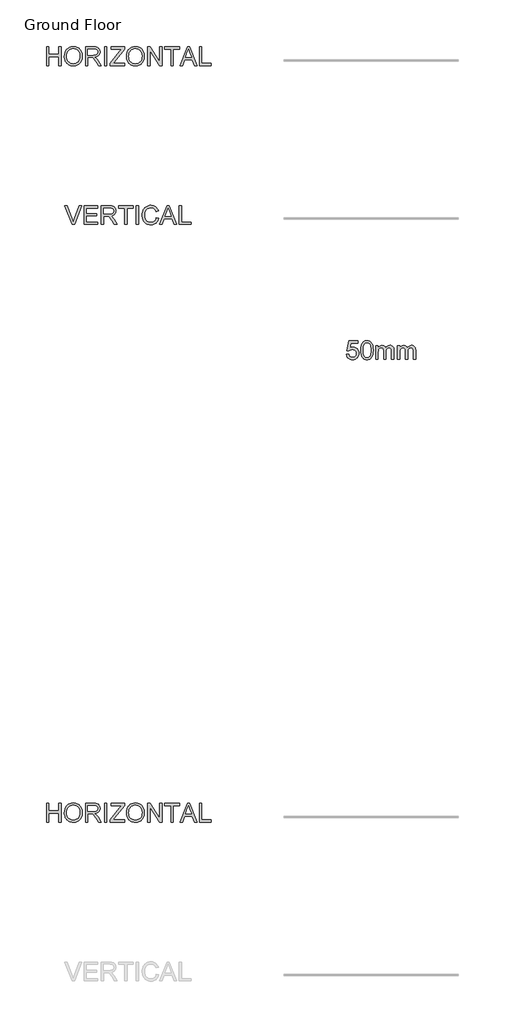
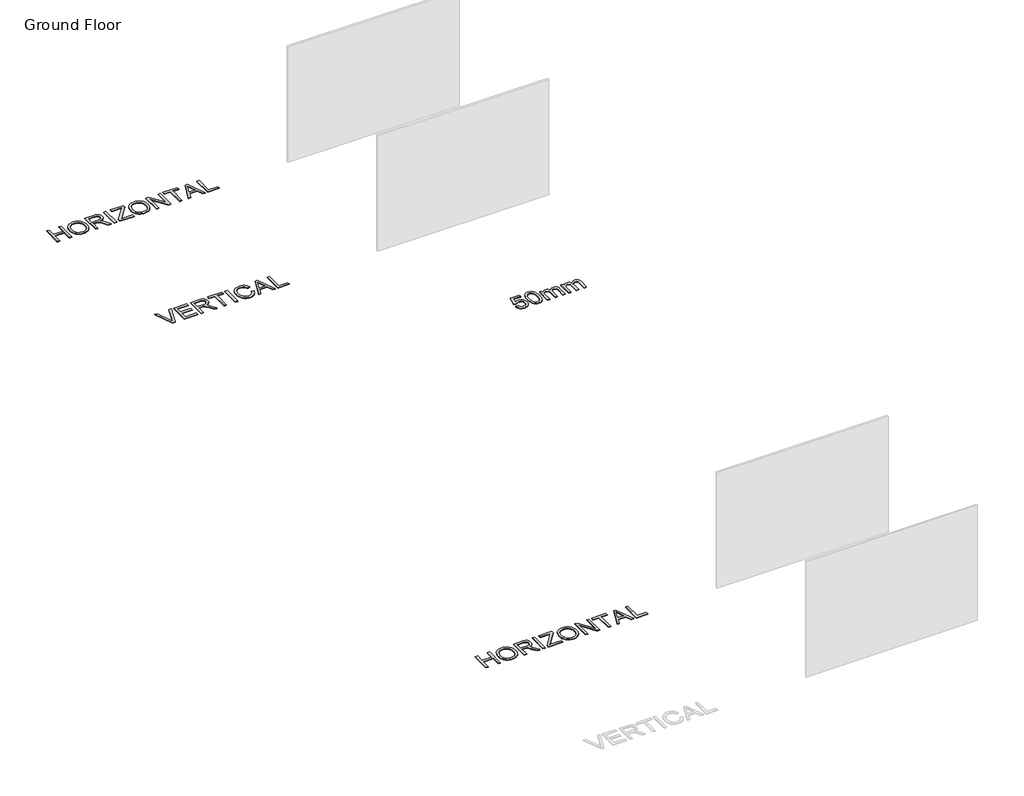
# One storey, part 2 of 14: 4 proxies.
"""IFC4 building model written with IfcOpenShell, lengths in millimetres."""

from ifc_helpers import new_model, si_unit, origin, origin_with_axes, place, context, project, spatial, polyline, outline, extrude, element, save

model = new_model("IFC4")

# Units and contexts
model_context = context("Model", 3, world=origin())
ifc_project = project(units=[si_unit("LENGTHUNIT", "METRE", prefix="MILLI")], contexts=[model_context])

# Site, building, storey
site = spatial("IfcSite", under=ifc_project)
building = spatial("IfcBuilding", under=site)
storey = spatial("IfcBuildingStorey", under=building, Name="Ground Floor", Elevation=0.0)

# Proxies
placement = place(None, origin())
element("IfcBuildingElementProxy", 1, Name="600mm Arial", ObjectType="600mm Arial", at=placement, inside=storey, context=model_context, shape_type="SweptSolid", body=[
    extrude(outline(polyline([(-7336.2514914, -74174.8316105), (-7260.9092588, -74165.4138315), (-7255.2806643, -74189.6342623), (-7247.0768958, -74210.6449228), (-7236.2979533, -74228.4458128), (-7222.9438369, -74243.0369324), (-7207.0421377, -74254.3998876), (-7188.6204467, -74262.5162841), (-7167.6787642, -74267.386122), (-7144.2170899, -74269.0094013), (-7115.5222943, -74266.7515255), (-7090.212013, -74259.9778983), (-7068.2862461, -74248.6885196), (-7049.7449936, -74232.8833894), (-7035.0021226, -74213.3442569), (-7024.4715005, -74190.8528714), (-7018.1531272, -74165.4092329), (-7016.0470028, -74137.0133414), (-7018.01977, -74110.1763499), (-7023.9380716, -74086.3192025), (-7033.8019076, -74065.4418993), (-7047.611278, -74047.5444402), (-7065.412168, -74033.1878453), (-7087.250563, -74022.9331347), (-7113.1264628, -74016.7803084), (-7143.0398675, -74014.7293662), (-7179.5889438, -74018.003516), (-7209.1850503, -74027.8259653), (-7232.8214685, -74042.8723389), (-7251.4914797, -74061.8182616), (-7326.8337123, -74052.4004825), (-7260.9092588, -73741.613773), (-6968.9581074, -73741.613773), (-6968.9581074, -73816.9560056), (-7199.9880004, -73816.9560056), (-7232.2144632, -73982.9443618), (-7205.625792, -73963.8880745), (-7178.3933273, -73950.2764407), (-7150.5170691, -73942.1094604), (-7121.9970174, -73939.3871336), (-7085.3053869, -73942.7624509), (-7051.6027976, -73952.8884028), (-7020.8892496, -73969.7649894), (-6993.1647427, -73993.3922105), (-6970.2135047, -74022.3261294), (-6953.8197633, -74055.1228093), (-6943.9835185, -74091.7822501), (-6940.7047702, -74132.3044519), (-6943.6570232, -74171.3367316), (-6952.5137822, -74207.6466845), (-6967.2750473, -74241.2343107), (-6987.9408184, -74272.0996101), (-7019.2475762, -74303.7098705), (-7055.7782583, -74326.2886279), (-7097.5328647, -74339.8358824), (-7144.5113955, -74344.3516339), (-7183.3919239, -74341.4499647), (-7218.5108589, -74332.744957), (-7249.8682004, -74318.2366108), (-7277.4639486, -74297.9249261), (-7300.4243836, -74272.8215785), (-7317.8757857, -74243.9382433), (-7329.818155, -74211.2749207), (-7336.2514914, -74174.8316105)])), origin_with_axes(), (0.0, 0.0, 1.0), 20.0),
    extrude(outline(polyline([(-6874.7803167, -74038.4209667), (-6869.2436926, -73941.9439135), (-6862.3229126, -73901.0308371), (-6852.6338205, -73865.0013942), (-6840.2178032, -73833.5612792), (-6825.1162473, -73806.4161865), (-6807.3291528, -73783.566116), (-6786.8565198, -73765.0110679), (-6763.6293703, -73750.654473), (-6737.5787266, -73740.3997624), (-6708.7045885, -73734.2469361), (-6677.0069561, -73732.1959939), (-6630.5802483, -73737.0520363), (-6589.0095828, -73751.6201633), (-6554.2447343, -73775.3301579), (-6528.2354772, -73807.6118029), (-6508.5905787, -73848.189187), (-6492.9188057, -73896.7863986), (-6482.654898, -73958.4986033), (-6479.2335954, -74038.4209667), (-6484.7150372, -74134.346197), (-6491.5668393, -74175.1213176), (-6501.1593624, -74211.1047753), (-6513.4788107, -74242.5586858), (-6528.5113887, -74269.7451653), (-6546.2570964, -74292.6642136), (-6566.7159339, -74311.3158307), (-6589.9706745, -74325.7689946), (-6616.1040917, -74336.0926831), (-6645.1161856, -74342.2868962), (-6677.0069561, -74344.3516339), (-6718.5040451, -74340.7647845), (-6755.2922446, -74330.0042361), (-6787.3715546, -74312.0699888), (-6814.741975, -74286.9620427), (-6841.0087495, -74241.5746015), (-6859.7707313, -74185.0219418), (-6871.0279203, -74117.3040635), (-6874.7803167, -74038.4209667)]), holes=[polyline([(-6799.438084, -74038.2738139), (-6797.2307921, -74103.7706046), (-6790.6089162, -74156.7869987), (-6779.5724563, -74197.322996), (-6764.1214125, -74225.3785967), (-6745.4330072, -74244.4670737), (-6724.6844626, -74258.1017001), (-6701.8757789, -74266.282476), (-6677.0069561, -74269.0094013), (-6652.1381332, -74266.273279), (-6629.3294495, -74258.0649119), (-6608.5809049, -74244.3843002), (-6589.8924996, -74225.2314439), (-6574.4414558, -74197.129858), (-6563.4049959, -74156.6030577), (-6556.78312, -74103.651043), (-6554.5758281, -74038.2738139), (-6556.7095436, -73974.5106671), (-6563.1106903, -73922.4277736), (-6573.7792682, -73882.0251335), (-6588.7152772, -73853.3027467), (-6607.0909829, -73833.2807692), (-6628.0786507, -73818.9793566), (-6651.6782807, -73810.3985091), (-6677.8898728, -73807.5382265), (-6702.629937, -73810.0582182), (-6725.0523446, -73817.6181932), (-6745.1570957, -73830.2181515), (-6762.9441901, -73847.8580932), (-6778.9102687, -73879.1280628), (-6790.3146106, -73921.2873395), (-6797.1572157, -73974.3359232), (-6799.438084, -74038.2738139)])]), origin_with_axes(), (0.0, 0.0, 1.0), 20.0),
    extrude(outline(polyline([(-6394.4735838, -74334.9338548), (-6394.4735838, -73892.2982382), (-6319.1313511, -73892.2982382), (-6319.1313511, -73965.1388733), (-6296.4698202, -73931.6800058), (-6267.3335662, -73905.4684137), (-6232.7158705, -73888.5274478), (-6193.6100144, -73882.8804592), (-6151.7082551, -73888.6378124), (-6133.8751754, -73895.8345039), (-6118.120629, -73905.9098721), (-6093.0310769, -73933.556204), (-6076.6235399, -73970.436374), (-6049.161149, -73932.1306613), (-6017.8359971, -73904.7694379), (-5982.6480843, -73888.3527038), (-5943.5974105, -73882.8804592), (-5913.4356854, -73885.156729), (-5886.9619773, -73891.9855385), (-5864.1762862, -73903.3668878), (-5845.0786122, -73919.3007767), (-5829.9816548, -73939.9711463), (-5819.1981138, -73965.5619376), (-5812.7279892, -73996.0731505), (-5810.571281, -74031.5047852), (-5810.571281, -74334.9338548), (-5885.9135136, -74334.9338548), (-5885.9135136, -74063.8784008), (-5887.6609531, -74026.299255), (-5892.9032715, -74000.9705796), (-5902.7257208, -73983.6249435), (-5918.2135528, -73969.9949156), (-5938.1343628, -73961.1657477), (-5961.2557462, -73958.2226918), (-5982.6066975, -73960.108087), (-6002.0722536, -73965.7642727), (-6019.6524144, -73975.1912488), (-6035.3471801, -73988.3890154), (-6048.2552396, -74005.7438485), (-6057.4752821, -74027.6420243), (-6063.0073076, -74054.0835427), (-6064.8513161, -74085.0684037), (-6064.8513161, -74334.9338548), (-6140.1935487, -74334.9338548), (-6140.1935487, -74055.4906913), (-6144.5529503, -74012.8899563), (-6150.0022024, -73996.1697196), (-6157.6311553, -73982.5029035), (-6167.7433116, -73971.8803108), (-6180.6421741, -73964.2927447), (-6196.3277426, -73959.740205), (-6214.8000173, -73958.2226918), (-6243.8259067, -73962.2693937), (-6270.5709278, -73974.4094996), (-6292.6438475, -73994.3487037), (-6307.6534329, -74021.7927005), (-6316.2618716, -74059.868487), (-6319.1313511, -74111.7030602), (-6319.1313511, -74334.9338548), (-6394.4735838, -74334.9338548)])), origin_with_axes(), (0.0, 0.0, 1.0), 20.0),
    extrude(outline(polyline([(-5697.5579321, -74334.9338548), (-5697.5579321, -73892.2982382), (-5622.2156995, -73892.2982382), (-5622.2156995, -73965.1388733), (-5599.5541686, -73931.6800058), (-5570.4179146, -73905.4684137), (-5535.8002188, -73888.5274478), (-5496.6943627, -73882.8804592), (-5454.7926035, -73888.6378124), (-5436.9595238, -73895.8345039), (-5421.2049773, -73905.9098721), (-5396.1154252, -73933.556204), (-5379.7078883, -73970.436374), (-5352.2454973, -73932.1306613), (-5320.9203454, -73904.7694379), (-5285.7324326, -73888.3527038), (-5246.6817588, -73882.8804592), (-5216.5200337, -73885.156729), (-5190.0463256, -73891.9855385), (-5167.2606346, -73903.3668878), (-5148.1629605, -73919.3007767), (-5133.0660031, -73939.9711463), (-5122.2824621, -73965.5619376), (-5115.8123375, -73996.0731505), (-5113.6556293, -74031.5047852), (-5113.6556293, -74334.9338548), (-5188.997862, -74334.9338548), (-5188.997862, -74063.8784008), (-5190.7453014, -74026.299255), (-5195.9876199, -74000.9705796), (-5205.8100691, -73983.6249435), (-5221.2979011, -73969.9949156), (-5241.2187112, -73961.1657477), (-5264.3400946, -73958.2226918), (-5285.6910459, -73960.108087), (-5305.1566019, -73965.7642727), (-5322.7367628, -73975.1912488), (-5338.4315284, -73988.3890154), (-5351.3395879, -74005.7438485), (-5360.5596304, -74027.6420243), (-5366.0916559, -74054.0835427), (-5367.9356644, -74085.0684037), (-5367.9356644, -74334.9338548), (-5443.277897, -74334.9338548), (-5443.277897, -74055.4906913), (-5447.6372987, -74012.8899563), (-5453.0865507, -73996.1697196), (-5460.7155036, -73982.5029035), (-5470.8276599, -73971.8803108), (-5483.7265224, -73964.2927447), (-5499.412091, -73959.740205), (-5517.8843656, -73958.2226918), (-5546.9102551, -73962.2693937), (-5573.6552761, -73974.4094996), (-5595.7281958, -73994.3487037), (-5610.7377812, -74021.7927005), (-5619.3462199, -74059.868487), (-5622.2156995, -74111.7030602), (-5622.2156995, -74334.9338548), (-5697.5579321, -74334.9338548)])), origin_with_axes(), (0.0, 0.0, 1.0), 20.0),
])
element("IfcBuildingElementProxy", 2, Name="600mm Arial", ObjectType="600mm Arial", at=placement, inside=storey, context=model_context, shape_type="SweptSolid", body=[
    extrude(outline(polyline([(-16157.0682649, -69997.3504882), (-16396.9273258, -69394.6126273), (-16316.2875924, -69394.6126273), (-16155.7438897, -69828.8605344), (-16123.2231214, -69926.7171451), (-16091.1438114, -69828.8605344), (-15930.1586503, -69394.6126273), (-15849.5189169, -69394.6126273), (-16079.2244347, -69997.3504882), (-16157.0682649, -69997.3504882)])), origin_with_axes(), (0.0, 0.0, 1.0), 20.0),
    extrude(outline(polyline([(-15779.4741851, -69997.3504882), (-15779.4741851, -69394.6126273), (-15346.2563475, -69394.6126273), (-15346.2563475, -69469.9548599), (-15704.1319524, -69469.9548599), (-15704.1319524, -69648.8926624), (-15365.0919057, -69648.8926624), (-15365.0919057, -69724.234895), (-15704.1319524, -69724.234895), (-15704.1319524, -69922.0082556), (-15336.8385685, -69922.0082556), (-15336.8385685, -69997.3504882), (-15779.4741851, -69997.3504882)])), origin_with_axes(), (0.0, 0.0, 1.0), 20.0),
    extrude(outline(polyline([(-15223.8252195, -69997.3504882), (-15223.8252195, -69394.6126273), (-14964.1005309, -69394.6126273), (-14894.2949224, -69398.6777233), (-14843.5088129, -69410.8730115), (-14823.9098996, -69420.5667021), (-14806.3895196, -69433.3873896), (-14790.9476729, -69449.3350741), (-14777.5843594, -69468.4097555), (-14766.8008184, -69489.5859629), (-14759.0982891, -69511.8382251), (-14754.4767716, -69535.1665421), (-14752.9362657, -69559.5709139), (-14755.4884471, -69590.5281838), (-14763.1449911, -69618.947068), (-14775.9058978, -69644.8275663), (-14793.7711672, -69668.1696789), (-14816.9707255, -69688.2284447), (-14845.734499, -69704.2589026), (-14880.0624877, -69716.2610527), (-14919.9546915, -69724.234895), (-14895.1226569, -69740.458491), (-14877.1332273, -69756.4613578), (-14846.2679279, -69793.0656163), (-14816.0648161, -69834.0108823), (-14715.559455, -69997.3504882), (-14803.1153699, -69997.3504882), (-14881.5478112, -69872.4177626), (-14938.2016385, -69789.7178901), (-14959.2628827, -69765.6032253), (-14978.0064704, -69750.6488222), (-15013.8381767, -69736.3014244), (-15057.5425577, -69733.6526741), (-15148.4829869, -69733.6526741), (-15148.4829869, -69997.3504882), (-15223.8252195, -69997.3504882)]), holes=[polyline([(-15148.4829869, -69658.3104414), (-14979.8458803, -69658.3104414), (-14931.4142157, -69655.643297), (-14893.8350699, -69647.6418636), (-14865.5449444, -69633.7727124), (-14844.9803409, -69613.5024144), (-14832.453959, -69588.9830795), (-14828.2784983, -69562.3668171), (-14830.2696596, -69543.0989976), (-14836.2431435, -69525.6154058), (-14846.19895, -69509.9160416), (-14860.1370791, -69496.0009052), (-14878.3794275, -69484.6057604), (-14901.2478921, -69476.4663712), (-14928.7424727, -69471.5827377), (-14960.8631694, -69469.9548599), (-15148.4829869, -69469.9548599), (-15148.4829869, -69658.3104414)])]), origin_with_axes(), (0.0, 0.0, 1.0), 20.0),
    extrude(outline(polyline([(-14470.4028934, -69997.3504882), (-14470.4028934, -69469.9548599), (-14668.176254, -69469.9548599), (-14668.176254, -69394.6126273), (-14197.2873002, -69394.6126273), (-14197.2873002, -69469.9548599), (-14395.0606608, -69469.9548599), (-14395.0606608, -69997.3504882), (-14470.4028934, -69997.3504882)])), origin_with_axes(), (0.0, 0.0, 1.0), 20.0),
    extrude(outline(polyline([(-14103.1095094, -69997.3504882), (-14103.1095094, -69394.6126273), (-14027.7672768, -69394.6126273), (-14027.7672768, -69997.3504882), (-14103.1095094, -69997.3504882)])), origin_with_axes(), (0.0, 0.0, 1.0), 20.0),
    extrude(outline(polyline([(-13453.2827532, -69783.0960142), (-13377.9405205, -69802.5201836), (-13392.8489384, -69849.3745542), (-13412.7053691, -69890.3152217), (-13437.5098126, -69925.3421862), (-13467.262269, -69954.4554476), (-13501.2913535, -69977.3423062), (-13538.9256816, -69993.6900623), (-13580.1652533, -70003.498716), (-13625.0100685, -70006.7682673), (-13670.9539312, -70004.2942609), (-13712.4004365, -69996.8722416), (-13749.3495844, -69984.5022095), (-13781.8013748, -69967.1841646), (-13810.2018649, -69945.1756242), (-13834.9971114, -69918.7341058), (-13856.1871143, -69887.8596094), (-13873.7718736, -69852.5521349), (-13887.581244, -69814.3383926), (-13897.44508, -69774.7450929), (-13903.3633816, -69733.7722357), (-13905.3361488, -69691.419821), (-13903.1058642, -69645.9771976), (-13896.4150104, -69603.5328124), (-13885.2635875, -69564.0866654), (-13869.6515953, -69527.6387568), (-13849.9285218, -69494.7914931), (-13826.443855, -69466.1472813), (-13799.1975947, -69441.7061212), (-13768.189741, -69421.4680129), (-13734.4733562, -69405.5985034), (-13699.1015023, -69394.2631394), (-13662.0741795, -69387.461921), (-13623.3913877, -69385.1948482), (-13580.2986105, -69388.1287071), (-13540.7834857, -69396.9302839), (-13504.8460133, -69411.5995784), (-13472.4861933, -69432.1365908), (-13444.2374546, -69457.9986951), (-13420.6332261, -69488.6432653), (-13401.6735078, -69524.0703014), (-13387.3582996, -69564.2798035), (-13462.7005322, -69582.2324448), (-13474.5647266, -69552.6041487), (-13488.8201539, -69527.2892689), (-13505.4668142, -69506.2878055), (-13524.5047074, -69489.5997585), (-13546.0441982, -69476.884837), (-13570.1956512, -69467.8027502), (-13596.9590664, -69462.3534982), (-13626.3344437, -69460.5370808), (-13660.133602, -69462.5512348), (-13691.0448866, -69468.5936965), (-13719.0682976, -69478.6644661), (-13744.2038349, -69492.7635436), (-13766.1342004, -69510.2563325), (-13784.5420957, -69530.5082363), (-13799.4275209, -69553.5192551), (-13810.7904761, -69579.2893889), (-13825.1930562, -69634.4349), (-13829.9939162, -69691.2726682), (-13824.3101394, -69760.8759417), (-13817.2054184, -69792.1459113), (-13807.2588089, -69821.0614361), (-13794.3093627, -69847.0477005), (-13778.1961313, -69869.529889), (-13758.9191147, -69888.5080014), (-13736.478313, -69903.9820378), (-13711.9635766, -69915.9887864), (-13686.4647558, -69924.5650355), (-13659.9818507, -69929.7107849), (-13632.5148612, -69931.4260347), (-13599.7595681, -69929.089984), (-13569.6254341, -69922.081832), (-13542.1124594, -69910.4015786), (-13517.2206439, -69894.049224), (-13495.5385988, -69873.0983443), (-13477.6549353, -69847.6225162), (-13463.5696534, -69817.6217395), (-13453.2827532, -69783.0960142)])), origin_with_axes(), (0.0, 0.0, 1.0), 20.0),
    extrude(outline(polyline([(-13344.5368354, -69997.3504882), (-13103.9420105, -69394.6126273), (-13039.7833906, -69394.6126273), (-12799.1885657, -69997.3504882), (-12878.7982295, -69997.3504882), (-12947.8128918, -69808.9949067), (-13196.0596621, -69808.9949067), (-13264.9271716, -69997.3504882), (-13344.5368354, -69997.3504882)]), holes=[polyline([(-13168.3949361, -69733.6526741), (-12975.330465, -69733.6526741), (-13029.6298475, -69585.4698064), (-13071.8627006, -69469.9548599), (-13109.3866641, -69572.5203602), (-13168.3949361, -69733.6526741)])]), origin_with_axes(), (0.0, 0.0, 1.0), 20.0),
    extrude(outline(polyline([(-12718.6959852, -69997.3504882), (-12718.6959852, -69394.6126273), (-12643.3537526, -69394.6126273), (-12643.3537526, -69922.0082556), (-12341.9848221, -69922.0082556), (-12341.9848221, -69997.3504882), (-12718.6959852, -69997.3504882)])), origin_with_axes(), (0.0, 0.0, 1.0), 20.0),
])
element("IfcBuildingElementProxy", 3, Name="600mm Arial", ObjectType="600mm Arial", at=placement, inside=storey, context=model_context, shape_type="SweptSolid", body=[
    extrude(outline(polyline([(-16984.9499069, -64892.5504882), (-16984.9499069, -64289.8126273), (-16909.6076742, -64289.8126273), (-16909.6076742, -64534.6748833), (-16589.4031856, -64534.6748833), (-16589.4031856, -64289.8126273), (-16514.060953, -64289.8126273), (-16514.060953, -64892.5504882), (-16589.4031856, -64892.5504882), (-16589.4031856, -64610.0171159), (-16909.6076742, -64610.0171159), (-16909.6076742, -64892.5504882), (-16984.9499069, -64892.5504882)])), origin_with_axes(), (0.0, 0.0, 1.0), 20.0),
    extrude(outline(polyline([(-16410.4653832, -64599.1278088), (-16405.443794, -64528.4300864), (-16390.3790262, -64465.844162), (-16365.2710801, -64411.3700356), (-16348.9509151, -64387.1748966), (-16330.1199554, -64365.0077071), (-16287.0317768, -64327.9895813), (-16238.1126684, -64301.5480629), (-16183.3626305, -64285.6831519), (-16122.781663, -64280.3948482), (-16082.23187, -64282.8780517), (-16043.7238222, -64290.3276621), (-16007.2575194, -64302.7436794), (-15972.8329617, -64320.1261037), (-15941.4158393, -64341.9507031), (-15913.9718425, -64367.6932457), (-15890.5009712, -64397.3537315), (-15871.0032255, -64430.9321607), (-15855.6809404, -64467.6651779), (-15844.736451, -64506.7894281), (-15838.1697574, -64548.3049112), (-15835.9808595, -64592.2116273), (-15838.2847205, -64636.6977576), (-15845.1963035, -64678.7742608), (-15856.7156085, -64718.4411369), (-15872.8426354, -64755.698386), (-15893.1957068, -64789.5619236), (-15917.3931451, -64819.0476656), (-15945.4349501, -64844.1556117), (-15977.3211221, -64864.8857622), (-16011.7962635, -64881.1093581), (-16047.6049772, -64892.697641), (-16084.7472632, -64899.6506107), (-16123.2231214, -64901.9682673), (-16164.4810871, -64899.4068889), (-16203.4949727, -64891.7227537), (-16240.2647781, -64878.9158618), (-16274.7905034, -64860.986213), (-16306.1708376, -64838.6281848), (-16333.5044698, -64812.5361542), (-16356.7914001, -64782.7101215), (-16376.0316284, -64749.1500865), (-16391.0963961, -64713.203417), (-16401.8569445, -64676.2174809), (-16408.3132735, -64638.1922782), (-16410.4653832, -64599.1278088)]), holes=[polyline([(-16335.1231506, -64599.8635728), (-16331.3569586, -64649.8127507), (-16320.0583829, -64694.1517282), (-16301.2274232, -64732.8805052), (-16274.8640798, -64765.9990819), (-16242.8169595, -64792.5233737), (-16206.9346694, -64811.4692965), (-16167.2172095, -64822.8368501), (-16123.6645797, -64826.6260347), (-16079.366989, -64822.8000619), (-16039.1804796, -64811.3221437), (-16003.1050514, -64792.1922799), (-15971.1407045, -64765.4104707), (-15944.9704991, -64731.5929183), (-15926.2774952, -64691.355825), (-15915.0616929, -64644.699191), (-15911.3230921, -64591.6230161), (-15912.9233788, -64557.1432761), (-15917.7242388, -64524.9260104), (-15925.7256722, -64494.971219), (-15936.927679, -64467.2789018), (-15951.2060989, -64442.2123423), (-15968.4367719, -64420.1348241), (-15988.6196978, -64401.0463471), (-16011.7548768, -64384.9469113), (-16037.1249389, -64372.1676104), (-16064.0125142, -64363.0395384), (-16092.4176028, -64357.5626952), (-16122.3402046, -64355.7370808), (-16164.3799196, -64359.2549524), (-16203.3846081, -64369.8085672), (-16239.3542702, -64387.397925), (-16272.2889058, -64412.0230261), (-16299.7788879, -64444.8702897), (-16319.4145894, -64487.1261354), (-16331.1960103, -64538.7905631), (-16335.1231506, -64599.8635728)])]), origin_with_axes(), (0.0, 0.0, 1.0), 20.0),
    extrude(outline(polyline([(-15732.3852897, -64892.5504882), (-15732.3852897, -64289.8126273), (-15472.6606011, -64289.8126273), (-15402.8549925, -64293.8777233), (-15352.0688831, -64306.0730115), (-15332.4699698, -64315.7667021), (-15314.9495897, -64328.5873896), (-15299.507743, -64344.5350741), (-15286.1444295, -64363.6097555), (-15275.3608885, -64384.7859629), (-15267.6583593, -64407.0382251), (-15263.0368417, -64430.3665421), (-15261.4963359, -64454.7709139), (-15264.0485172, -64485.7281838), (-15271.7050612, -64514.147068), (-15284.4659679, -64540.0275663), (-15302.3312373, -64563.3696789), (-15325.5307956, -64583.4284447), (-15354.2945691, -64599.4589026), (-15388.6225578, -64611.4610527), (-15428.5147617, -64619.434895), (-15403.682727, -64635.658491), (-15385.6932974, -64651.6613578), (-15354.827998, -64688.2656163), (-15324.6248862, -64729.2108823), (-15224.1195251, -64892.5504882), (-15311.67544, -64892.5504882), (-15390.1078814, -64767.6177626), (-15446.7617086, -64684.9178901), (-15467.8229528, -64660.8032253), (-15486.5665405, -64645.8488222), (-15522.3982468, -64631.5014244), (-15566.1026279, -64628.8526741), (-15657.0430571, -64628.8526741), (-15657.0430571, -64892.5504882), (-15732.3852897, -64892.5504882)]), holes=[polyline([(-15657.0430571, -64553.5104414), (-15488.4059505, -64553.5104414), (-15439.9742858, -64550.843297), (-15402.39514, -64542.8418636), (-15374.1050146, -64528.9727124), (-15353.540411, -64508.7024144), (-15341.0140291, -64484.1830795), (-15336.8385685, -64457.5668171), (-15338.8297298, -64438.2989976), (-15344.8032137, -64420.8154058), (-15354.7590202, -64405.1160416), (-15368.6971492, -64391.2009052), (-15386.9394977, -64379.8057604), (-15409.8079622, -64371.6663712), (-15437.3025428, -64366.7827377), (-15469.4232395, -64365.1548599), (-15657.0430571, -64365.1548599), (-15657.0430571, -64553.5104414)])]), origin_with_axes(), (0.0, 0.0, 1.0), 20.0),
    extrude(outline(polyline([(-15120.2296497, -64892.5504882), (-15120.2296497, -64289.8126273), (-15044.8874171, -64289.8126273), (-15044.8874171, -64892.5504882), (-15120.2296497, -64892.5504882)])), origin_with_axes(), (0.0, 0.0, 1.0), 20.0),
    extrude(outline(polyline([(-14941.2918472, -64892.5504882), (-14941.2918472, -64814.4123524), (-14633.0067353, -64436.9654254), (-14574.4399217, -64365.1548599), (-14903.6207309, -64365.1548599), (-14903.6207309, -64289.8126273), (-14479.8206725, -64289.8126273), (-14479.8206725, -64365.1548599), (-14817.2420385, -64778.2127641), (-14849.0270429, -64817.2082556), (-14470.4028934, -64817.2082556), (-14470.4028934, -64892.5504882), (-14941.2918472, -64892.5504882)])), origin_with_axes(), (0.0, 0.0, 1.0), 20.0),
    extrude(outline(polyline([(-14413.896219, -64599.1278088), (-14408.8746297, -64528.4300864), (-14393.809862, -64465.844162), (-14368.7019159, -64411.3700356), (-14352.3817508, -64387.1748966), (-14333.5507912, -64365.0077071), (-14290.4626125, -64327.9895813), (-14241.5435042, -64301.5480629), (-14186.7934663, -64285.6831519), (-14126.2124987, -64280.3948482), (-14085.6627058, -64282.8780517), (-14047.154658, -64290.3276621), (-14010.6883552, -64302.7436794), (-13976.2637975, -64320.1261037), (-13944.8466751, -64341.9507031), (-13917.4026783, -64367.6932457), (-13893.931807, -64397.3537315), (-13874.4340612, -64430.9321607), (-13859.1117761, -64467.6651779), (-13848.1672868, -64506.7894281), (-13841.6005932, -64548.3049112), (-13839.4116953, -64592.2116273), (-13841.7155563, -64636.6977576), (-13848.6271393, -64678.7742608), (-13860.1464442, -64718.4411369), (-13876.2734712, -64755.698386), (-13896.6265426, -64789.5619236), (-13920.8239808, -64819.0476656), (-13948.8657859, -64844.1556117), (-13980.7519578, -64864.8857622), (-14015.2270993, -64881.1093581), (-14051.035813, -64892.697641), (-14088.178099, -64899.6506107), (-14126.6539571, -64901.9682673), (-14167.9119229, -64899.4068889), (-14206.9258085, -64891.7227537), (-14243.6956139, -64878.9158618), (-14278.2213391, -64860.986213), (-14309.6016733, -64838.6281848), (-14336.9353056, -64812.5361542), (-14360.2222359, -64782.7101215), (-14379.4624642, -64749.1500865), (-14394.5272319, -64713.203417), (-14405.2877803, -64676.2174809), (-14411.7441093, -64638.1922782), (-14413.896219, -64599.1278088)]), holes=[polyline([(-14338.5539864, -64599.8635728), (-14334.7877944, -64649.8127507), (-14323.4892186, -64694.1517282), (-14304.658259, -64732.8805052), (-14278.2949155, -64765.9990819), (-14246.2477952, -64792.5233737), (-14210.3655051, -64811.4692965), (-14170.6480452, -64822.8368501), (-14127.0954155, -64826.6260347), (-14082.7978248, -64822.8000619), (-14042.6113153, -64811.3221437), (-14006.5358872, -64792.1922799), (-13974.5715403, -64765.4104707), (-13948.4013349, -64731.5929183), (-13929.708331, -64691.355825), (-13918.4925287, -64644.699191), (-13914.7539279, -64591.6230161), (-13916.3542146, -64557.1432761), (-13921.1550746, -64524.9260104), (-13929.156508, -64494.971219), (-13940.3585148, -64467.2789018), (-13954.6369347, -64442.2123423), (-13971.8676077, -64420.1348241), (-13992.0505336, -64401.0463471), (-14015.1857126, -64384.9469113), (-14040.5557747, -64372.1676104), (-14067.44335, -64363.0395384), (-14095.8484386, -64357.5626952), (-14125.7710403, -64355.7370808), (-14167.8107553, -64359.2549524), (-14206.8154439, -64369.8085672), (-14242.785106, -64387.397925), (-14275.7197416, -64412.0230261), (-14303.2097237, -64444.8702897), (-14322.8454252, -64487.1261354), (-14334.6268461, -64538.7905631), (-14338.5539864, -64599.8635728)])]), origin_with_axes(), (0.0, 0.0, 1.0), 20.0),
    extrude(outline(polyline([(-13735.8161255, -64892.5504882), (-13735.8161255, -64289.8126273), (-13655.1763921, -64289.8126273), (-13340.2694042, -64767.323457), (-13340.2694042, -64289.8126273), (-13264.9271716, -64289.8126273), (-13264.9271716, -64892.5504882), (-13345.566905, -64892.5504882), (-13660.4738928, -64414.8925057), (-13660.4738928, -64892.5504882), (-13735.8161255, -64892.5504882)])), origin_with_axes(), (0.0, 0.0, 1.0), 20.0),
    extrude(outline(polyline([(-12982.3937993, -64892.5504882), (-12982.3937993, -64365.1548599), (-13180.1671599, -64365.1548599), (-13180.1671599, -64289.8126273), (-12709.2782061, -64289.8126273), (-12709.2782061, -64365.1548599), (-12907.0515667, -64365.1548599), (-12907.0515667, -64892.5504882), (-12982.3937993, -64892.5504882)])), origin_with_axes(), (0.0, 0.0, 1.0), 20.0),
    extrude(outline(polyline([(-12694.7100791, -64892.5504882), (-12454.1152543, -64289.8126273), (-12389.9566343, -64289.8126273), (-12149.3618095, -64892.5504882), (-12228.9714732, -64892.5504882), (-12297.9861355, -64704.1949067), (-12546.2329058, -64704.1949067), (-12615.1004153, -64892.5504882), (-12694.7100791, -64892.5504882)]), holes=[polyline([(-12518.5681798, -64628.8526741), (-12325.5037087, -64628.8526741), (-12379.8030912, -64480.6698064), (-12422.0359443, -64365.1548599), (-12459.5599078, -64467.7203602), (-12518.5681798, -64628.8526741)])]), origin_with_axes(), (0.0, 0.0, 1.0), 20.0),
    extrude(outline(polyline([(-12068.8692289, -64892.5504882), (-12068.8692289, -64289.8126273), (-11993.5269963, -64289.8126273), (-11993.5269963, -64817.2082556), (-11692.1580658, -64817.2082556), (-11692.1580658, -64892.5504882), (-12068.8692289, -64892.5504882)])), origin_with_axes(), (0.0, 0.0, 1.0), 20.0),
])
element("IfcBuildingElementProxy", 4, Name="600mm Arial", ObjectType="600mm Arial", at=placement, inside=storey, context=model_context, shape_type="SweptSolid", body=[
    extrude(outline(polyline([(-16984.9499069, -89197.3504882), (-16984.9499069, -88594.6126273), (-16909.6076742, -88594.6126273), (-16909.6076742, -88839.4748833), (-16589.4031856, -88839.4748833), (-16589.4031856, -88594.6126273), (-16514.060953, -88594.6126273), (-16514.060953, -89197.3504882), (-16589.4031856, -89197.3504882), (-16589.4031856, -88914.8171159), (-16909.6076742, -88914.8171159), (-16909.6076742, -89197.3504882), (-16984.9499069, -89197.3504882)])), origin_with_axes(), (0.0, 0.0, 1.0), 20.0),
    extrude(outline(polyline([(-16410.4653832, -88903.9278088), (-16405.443794, -88833.2300864), (-16390.3790262, -88770.644162), (-16365.2710801, -88716.1700356), (-16348.9509151, -88691.9748966), (-16330.1199554, -88669.8077071), (-16287.0317768, -88632.7895813), (-16238.1126684, -88606.3480629), (-16183.3626305, -88590.4831519), (-16122.781663, -88585.1948482), (-16082.23187, -88587.6780517), (-16043.7238222, -88595.1276621), (-16007.2575194, -88607.5436794), (-15972.8329617, -88624.9261037), (-15941.4158393, -88646.7507031), (-15913.9718425, -88672.4932457), (-15890.5009712, -88702.1537315), (-15871.0032255, -88735.7321607), (-15855.6809404, -88772.4651779), (-15844.736451, -88811.5894281), (-15838.1697574, -88853.1049112), (-15835.9808595, -88897.0116273), (-15838.2847205, -88941.4977576), (-15845.1963035, -88983.5742608), (-15856.7156085, -89023.2411369), (-15872.8426354, -89060.498386), (-15893.1957068, -89094.3619236), (-15917.3931451, -89123.8476656), (-15945.4349501, -89148.9556117), (-15977.3211221, -89169.6857622), (-16011.7962635, -89185.9093581), (-16047.6049772, -89197.497641), (-16084.7472632, -89204.4506107), (-16123.2231214, -89206.7682673), (-16164.4810871, -89204.2068889), (-16203.4949727, -89196.5227537), (-16240.2647781, -89183.7158618), (-16274.7905034, -89165.786213), (-16306.1708376, -89143.4281848), (-16333.5044698, -89117.3361542), (-16356.7914001, -89087.5101215), (-16376.0316284, -89053.9500865), (-16391.0963961, -89018.003417), (-16401.8569445, -88981.0174809), (-16408.3132735, -88942.9922782), (-16410.4653832, -88903.9278088)]), holes=[polyline([(-16335.1231506, -88904.6635728), (-16331.3569586, -88954.6127507), (-16320.0583829, -88998.9517282), (-16301.2274232, -89037.6805052), (-16274.8640798, -89070.7990819), (-16242.8169595, -89097.3233737), (-16206.9346694, -89116.2692965), (-16167.2172095, -89127.6368501), (-16123.6645797, -89131.4260347), (-16079.366989, -89127.6000619), (-16039.1804796, -89116.1221437), (-16003.1050514, -89096.9922799), (-15971.1407045, -89070.2104707), (-15944.9704991, -89036.3929183), (-15926.2774952, -88996.155825), (-15915.0616929, -88949.499191), (-15911.3230921, -88896.4230161), (-15912.9233788, -88861.9432761), (-15917.7242388, -88829.7260104), (-15925.7256722, -88799.771219), (-15936.927679, -88772.0789018), (-15951.2060989, -88747.0123423), (-15968.4367719, -88724.9348241), (-15988.6196978, -88705.8463471), (-16011.7548768, -88689.7469113), (-16037.1249389, -88676.9676104), (-16064.0125142, -88667.8395384), (-16092.4176028, -88662.3626952), (-16122.3402046, -88660.5370808), (-16164.3799196, -88664.0549524), (-16203.3846081, -88674.6085672), (-16239.3542702, -88692.197925), (-16272.2889058, -88716.8230261), (-16299.7788879, -88749.6702897), (-16319.4145894, -88791.9261354), (-16331.1960103, -88843.5905631), (-16335.1231506, -88904.6635728)])]), origin_with_axes(), (0.0, 0.0, 1.0), 20.0),
    extrude(outline(polyline([(-15732.3852897, -89197.3504882), (-15732.3852897, -88594.6126273), (-15472.6606011, -88594.6126273), (-15402.8549925, -88598.6777233), (-15352.0688831, -88610.8730115), (-15332.4699698, -88620.5667021), (-15314.9495897, -88633.3873896), (-15299.507743, -88649.3350741), (-15286.1444295, -88668.4097555), (-15275.3608885, -88689.5859629), (-15267.6583593, -88711.8382251), (-15263.0368417, -88735.1665421), (-15261.4963359, -88759.5709139), (-15264.0485172, -88790.5281838), (-15271.7050612, -88818.947068), (-15284.4659679, -88844.8275663), (-15302.3312373, -88868.1696789), (-15325.5307956, -88888.2284447), (-15354.2945691, -88904.2589026), (-15388.6225578, -88916.2610527), (-15428.5147617, -88924.234895), (-15403.682727, -88940.458491), (-15385.6932974, -88956.4613578), (-15354.827998, -88993.0656163), (-15324.6248862, -89034.0108823), (-15224.1195251, -89197.3504882), (-15311.67544, -89197.3504882), (-15390.1078814, -89072.4177626), (-15446.7617086, -88989.7178901), (-15467.8229528, -88965.6032253), (-15486.5665405, -88950.6488222), (-15522.3982468, -88936.3014244), (-15566.1026279, -88933.6526741), (-15657.0430571, -88933.6526741), (-15657.0430571, -89197.3504882), (-15732.3852897, -89197.3504882)]), holes=[polyline([(-15657.0430571, -88858.3104414), (-15488.4059505, -88858.3104414), (-15439.9742858, -88855.643297), (-15402.39514, -88847.6418636), (-15374.1050146, -88833.7727124), (-15353.540411, -88813.5024144), (-15341.0140291, -88788.9830795), (-15336.8385685, -88762.3668171), (-15338.8297298, -88743.0989976), (-15344.8032137, -88725.6154058), (-15354.7590202, -88709.9160416), (-15368.6971492, -88696.0009052), (-15386.9394977, -88684.6057604), (-15409.8079622, -88676.4663712), (-15437.3025428, -88671.5827377), (-15469.4232395, -88669.9548599), (-15657.0430571, -88669.9548599), (-15657.0430571, -88858.3104414)])]), origin_with_axes(), (0.0, 0.0, 1.0), 20.0),
    extrude(outline(polyline([(-15120.2296497, -89197.3504882), (-15120.2296497, -88594.6126273), (-15044.8874171, -88594.6126273), (-15044.8874171, -89197.3504882), (-15120.2296497, -89197.3504882)])), origin_with_axes(), (0.0, 0.0, 1.0), 20.0),
    extrude(outline(polyline([(-14941.2918472, -89197.3504882), (-14941.2918472, -89119.2123524), (-14633.0067353, -88741.7654254), (-14574.4399217, -88669.9548599), (-14903.6207309, -88669.9548599), (-14903.6207309, -88594.6126273), (-14479.8206725, -88594.6126273), (-14479.8206725, -88669.9548599), (-14817.2420385, -89083.0127641), (-14849.0270429, -89122.0082556), (-14470.4028934, -89122.0082556), (-14470.4028934, -89197.3504882), (-14941.2918472, -89197.3504882)])), origin_with_axes(), (0.0, 0.0, 1.0), 20.0),
    extrude(outline(polyline([(-14413.896219, -88903.9278088), (-14408.8746297, -88833.2300864), (-14393.809862, -88770.644162), (-14368.7019159, -88716.1700356), (-14352.3817508, -88691.9748966), (-14333.5507912, -88669.8077071), (-14290.4626125, -88632.7895813), (-14241.5435042, -88606.3480629), (-14186.7934663, -88590.4831519), (-14126.2124987, -88585.1948482), (-14085.6627058, -88587.6780517), (-14047.154658, -88595.1276621), (-14010.6883552, -88607.5436794), (-13976.2637975, -88624.9261037), (-13944.8466751, -88646.7507031), (-13917.4026783, -88672.4932457), (-13893.931807, -88702.1537315), (-13874.4340612, -88735.7321607), (-13859.1117761, -88772.4651779), (-13848.1672868, -88811.5894281), (-13841.6005932, -88853.1049112), (-13839.4116953, -88897.0116273), (-13841.7155563, -88941.4977576), (-13848.6271393, -88983.5742608), (-13860.1464442, -89023.2411369), (-13876.2734712, -89060.498386), (-13896.6265426, -89094.3619236), (-13920.8239808, -89123.8476656), (-13948.8657859, -89148.9556117), (-13980.7519578, -89169.6857622), (-14015.2270993, -89185.9093581), (-14051.035813, -89197.497641), (-14088.178099, -89204.4506107), (-14126.6539571, -89206.7682673), (-14167.9119229, -89204.2068889), (-14206.9258085, -89196.5227537), (-14243.6956139, -89183.7158618), (-14278.2213391, -89165.786213), (-14309.6016733, -89143.4281848), (-14336.9353056, -89117.3361542), (-14360.2222359, -89087.5101215), (-14379.4624642, -89053.9500865), (-14394.5272319, -89018.003417), (-14405.2877803, -88981.0174809), (-14411.7441093, -88942.9922782), (-14413.896219, -88903.9278088)]), holes=[polyline([(-14338.5539864, -88904.6635728), (-14334.7877944, -88954.6127507), (-14323.4892186, -88998.9517282), (-14304.658259, -89037.6805052), (-14278.2949155, -89070.7990819), (-14246.2477952, -89097.3233737), (-14210.3655051, -89116.2692965), (-14170.6480452, -89127.6368501), (-14127.0954155, -89131.4260347), (-14082.7978248, -89127.6000619), (-14042.6113153, -89116.1221437), (-14006.5358872, -89096.9922799), (-13974.5715403, -89070.2104707), (-13948.4013349, -89036.3929183), (-13929.708331, -88996.155825), (-13918.4925287, -88949.499191), (-13914.7539279, -88896.4230161), (-13916.3542146, -88861.9432761), (-13921.1550746, -88829.7260104), (-13929.156508, -88799.771219), (-13940.3585148, -88772.0789018), (-13954.6369347, -88747.0123423), (-13971.8676077, -88724.9348241), (-13992.0505336, -88705.8463471), (-14015.1857126, -88689.7469113), (-14040.5557747, -88676.9676104), (-14067.44335, -88667.8395384), (-14095.8484386, -88662.3626952), (-14125.7710403, -88660.5370808), (-14167.8107553, -88664.0549524), (-14206.8154439, -88674.6085672), (-14242.785106, -88692.197925), (-14275.7197416, -88716.8230261), (-14303.2097237, -88749.6702897), (-14322.8454252, -88791.9261354), (-14334.6268461, -88843.5905631), (-14338.5539864, -88904.6635728)])]), origin_with_axes(), (0.0, 0.0, 1.0), 20.0),
    extrude(outline(polyline([(-13735.8161255, -89197.3504882), (-13735.8161255, -88594.6126273), (-13655.1763921, -88594.6126273), (-13340.2694042, -89072.123457), (-13340.2694042, -88594.6126273), (-13264.9271716, -88594.6126273), (-13264.9271716, -89197.3504882), (-13345.566905, -89197.3504882), (-13660.4738928, -88719.6925057), (-13660.4738928, -89197.3504882), (-13735.8161255, -89197.3504882)])), origin_with_axes(), (0.0, 0.0, 1.0), 20.0),
    extrude(outline(polyline([(-12982.3937993, -89197.3504882), (-12982.3937993, -88669.9548599), (-13180.1671599, -88669.9548599), (-13180.1671599, -88594.6126273), (-12709.2782061, -88594.6126273), (-12709.2782061, -88669.9548599), (-12907.0515667, -88669.9548599), (-12907.0515667, -89197.3504882), (-12982.3937993, -89197.3504882)])), origin_with_axes(), (0.0, 0.0, 1.0), 20.0),
    extrude(outline(polyline([(-12694.7100791, -89197.3504882), (-12454.1152543, -88594.6126273), (-12389.9566343, -88594.6126273), (-12149.3618095, -89197.3504882), (-12228.9714732, -89197.3504882), (-12297.9861355, -89008.9949067), (-12546.2329058, -89008.9949067), (-12615.1004153, -89197.3504882), (-12694.7100791, -89197.3504882)]), holes=[polyline([(-12518.5681798, -88933.6526741), (-12325.5037087, -88933.6526741), (-12379.8030912, -88785.4698064), (-12422.0359443, -88669.9548599), (-12459.5599078, -88772.5203602), (-12518.5681798, -88933.6526741)])]), origin_with_axes(), (0.0, 0.0, 1.0), 20.0),
    extrude(outline(polyline([(-12068.8692289, -89197.3504882), (-12068.8692289, -88594.6126273), (-11993.5269963, -88594.6126273), (-11993.5269963, -89122.0082556), (-11692.1580658, -89122.0082556), (-11692.1580658, -89197.3504882), (-12068.8692289, -89197.3504882)])), origin_with_axes(), (0.0, 0.0, 1.0), 20.0),
])

save(model, "model.ifc")
